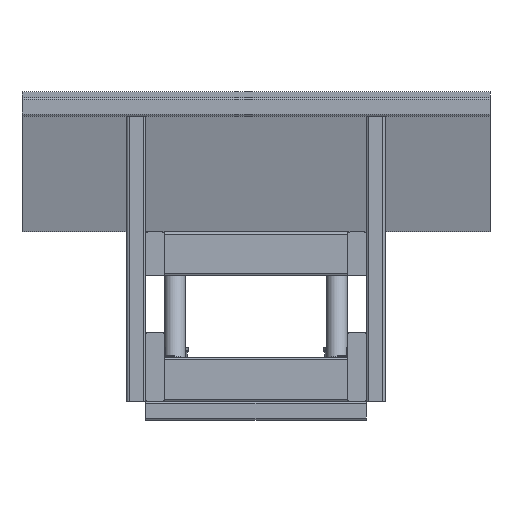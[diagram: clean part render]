
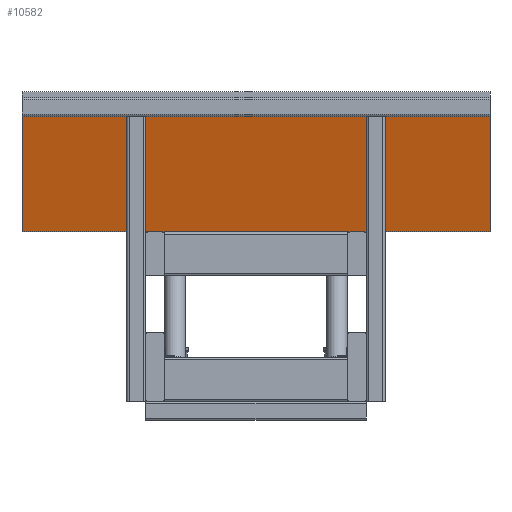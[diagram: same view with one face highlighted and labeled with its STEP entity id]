
A CAD part, front view. The second image highlights one B-rep face of the part: STEP entity #10582.
In plain terms, the highlighted planar face has unit normal (0, -0.966, -0.259) as drawn and (0, 0, -1) by its records, which use the part's own axes.
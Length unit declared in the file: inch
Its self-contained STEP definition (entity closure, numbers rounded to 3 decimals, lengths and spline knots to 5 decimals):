
#2464 = PLANE ( 'NONE',  #19169 ) ;
#4965 = LINE ( 'NONE', #25545, #14387 ) ;
#5343 = VECTOR ( 'NONE', #22432, 39.37008 ) ;
#8454 = ORIENTED_EDGE ( 'NONE', *, *, #42693, .F. ) ;
#9018 = VERTEX_POINT ( 'NONE', #30146 ) ;
#10582 = ADVANCED_FACE ( 'NONE', ( #29139 ), #2464, .T. ) ;
#11126 = VECTOR ( 'NONE', #15918, 39.37008 ) ;
#11401 = ORIENTED_EDGE ( 'NONE', *, *, #24154, .T. ) ;
#11448 = ORIENTED_EDGE ( 'NONE', *, *, #14266, .T. ) ;
#12434 = CARTESIAN_POINT ( 'NONE',  ( 18.63502, 0., -0.46875 ) ) ;
#14266 = EDGE_CURVE ( 'NONE', #38984, #17807, #39141, .T. ) ;
#14387 = VECTOR ( 'NONE', #28795, 39.37008 ) ;
#15699 = CARTESIAN_POINT ( 'NONE',  ( -32.17725, 0., -0.46875 ) ) ;
#15918 = DIRECTION ( 'NONE',  ( 0., 1., 0. ) ) ;
#17807 = VERTEX_POINT ( 'NONE', #27186 ) ;
#18956 = LINE ( 'NONE', #38287, #32602 ) ;
#19169 = AXIS2_PLACEMENT_3D ( 'NONE', #15699, #42373, #19174 ) ;
#19174 = DIRECTION ( 'NONE',  ( 0., 1., 0. ) ) ;
#19200 = EDGE_LOOP ( 'NONE', ( #33485, #11401, #11448, #8454 ) ) ;
#22112 = VERTEX_POINT ( 'NONE', #25304 ) ;
#22432 = DIRECTION ( 'NONE',  ( 1., 0., 0. ) ) ;
#24154 = EDGE_CURVE ( 'NONE', #22112, #38984, #4965, .T. ) ;
#25035 = DIRECTION ( 'NONE',  ( 1., 0., 0. ) ) ;
#25304 = CARTESIAN_POINT ( 'NONE',  ( -18.63502, -27.04874, -0.46875 ) ) ;
#25545 = CARTESIAN_POINT ( 'NONE',  ( -18.63502, 0., -0.46875 ) ) ;
#25684 = CARTESIAN_POINT ( 'NONE',  ( -32.17725, -16.08798, -0.46875 ) ) ;
#27186 = CARTESIAN_POINT ( 'NONE',  ( 18.63502, -16.08798, -0.46875 ) ) ;
#28795 = DIRECTION ( 'NONE',  ( 0., 1., 0. ) ) ;
#29139 = FACE_OUTER_BOUND ( 'NONE', #19200, .T. ) ;
#30146 = CARTESIAN_POINT ( 'NONE',  ( 18.63502, -27.04874, -0.46875 ) ) ;
#32602 = VECTOR ( 'NONE', #25035, 39.37008 ) ;
#33150 = CARTESIAN_POINT ( 'NONE',  ( -18.63502, -16.08798, -0.46875 ) ) ;
#33485 = ORIENTED_EDGE ( 'NONE', *, *, #37718, .F. ) ;
#36516 = LINE ( 'NONE', #12434, #11126 ) ;
#37718 = EDGE_CURVE ( 'NONE', #22112, #9018, #18956, .T. ) ;
#38287 = CARTESIAN_POINT ( 'NONE',  ( -32.17725, -27.04874, -0.46875 ) ) ;
#38984 = VERTEX_POINT ( 'NONE', #33150 ) ;
#39141 = LINE ( 'NONE', #25684, #5343 ) ;
#42373 = DIRECTION ( 'NONE',  ( 0., 0., -1. ) ) ;
#42693 = EDGE_CURVE ( 'NONE', #9018, #17807, #36516, .T. ) ;
